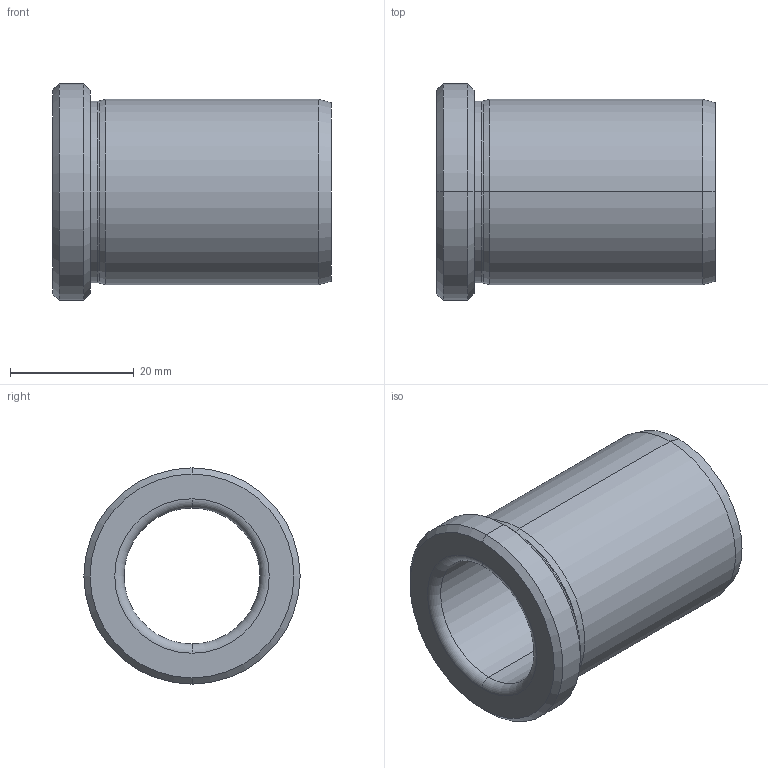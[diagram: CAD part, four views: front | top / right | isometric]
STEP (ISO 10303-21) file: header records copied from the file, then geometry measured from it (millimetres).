
FILE_DESCRIPTION (( 'STEP AP214' ), '1' );
FILE_NAME ('BRCVBG-22x45.STEP', '2020-07-21T12:16:40', ( '' ), ( '' ), 'SwSTEP 2.0', 'SolidWorks 2018', '' );
FILE_SCHEMA (( 'AUTOMOTIVE_DESIGN' ));
Length unit declared in the file: millimetre
Products named in the file (1): BRCVBG-22x45
Bounding box: 45 x 35 x 35 mm (x, y, z)
Volume: 15987.7 mm3; surface area: 8416.1 mm2
Topology: 1 solids, 1 shells, 23 faces, 46 edges, 26 vertices
Faces by surface type: cone 8, cylinder 8, torus 4, plane 3
Entity records: 636 total; most frequent: DIRECTION 124, CARTESIAN_POINT 96, ORIENTED_EDGE 92, AXIS2_PLACEMENT_3D 54, EDGE_CURVE 46, CIRCLE 30, VERTEX_POINT 26, EDGE_LOOP 26
